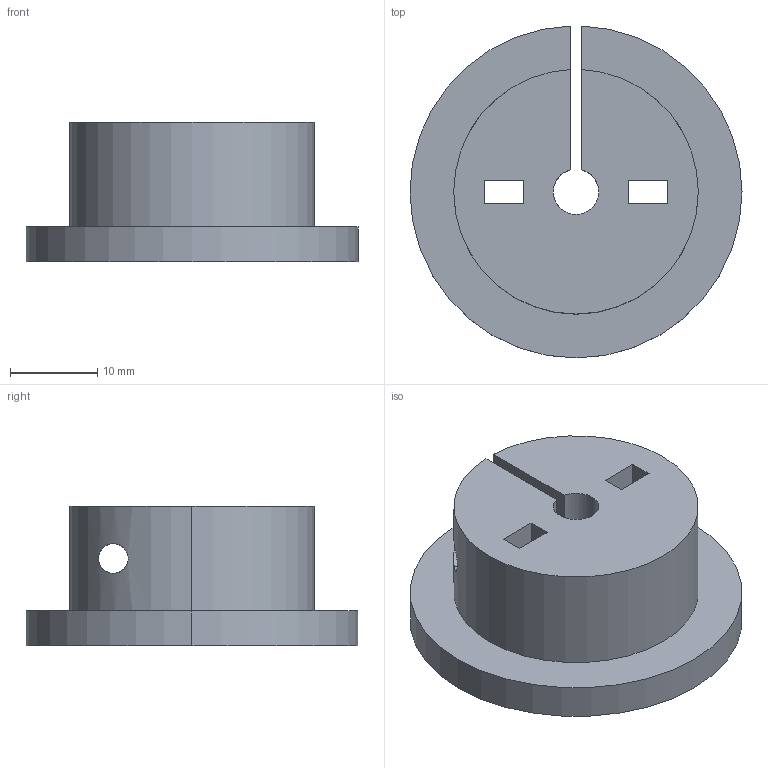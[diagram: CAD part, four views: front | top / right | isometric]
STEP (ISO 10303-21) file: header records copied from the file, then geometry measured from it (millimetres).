
FILE_DESCRIPTION (( 'STEP AP203' ), '1' );
FILE_NAME ('V2_06_horn_coupler.STEP', '2026-09-18T10:17:36', ( '15300530775@163.com' ), ( '' ), 'SwSTEP 2.0', 'SolidWorks 2026', '' );
FILE_SCHEMA (( 'CONFIG_CONTROL_DESIGN' ));
Length unit declared in the file: millimetre
Products named in the file (1): V2_06_horn_coupler
Bounding box: 38 x 37.99 x 16 mm (x, y, z)
Volume: 10785.3 mm3; surface area: 4928.2 mm2
Topology: 1 solids, 1 shells, 26 faces, 72 edges, 48 vertices
Faces by surface type: cylinder 13, plane 13
Entity records: 1059 total; most frequent: CARTESIAN_POINT 292, ORIENTED_EDGE 144, DIRECTION 138, EDGE_CURVE 72, VERTEX_POINT 48, VECTOR 46, LINE 46, AXIS2_PLACEMENT_3D 46
